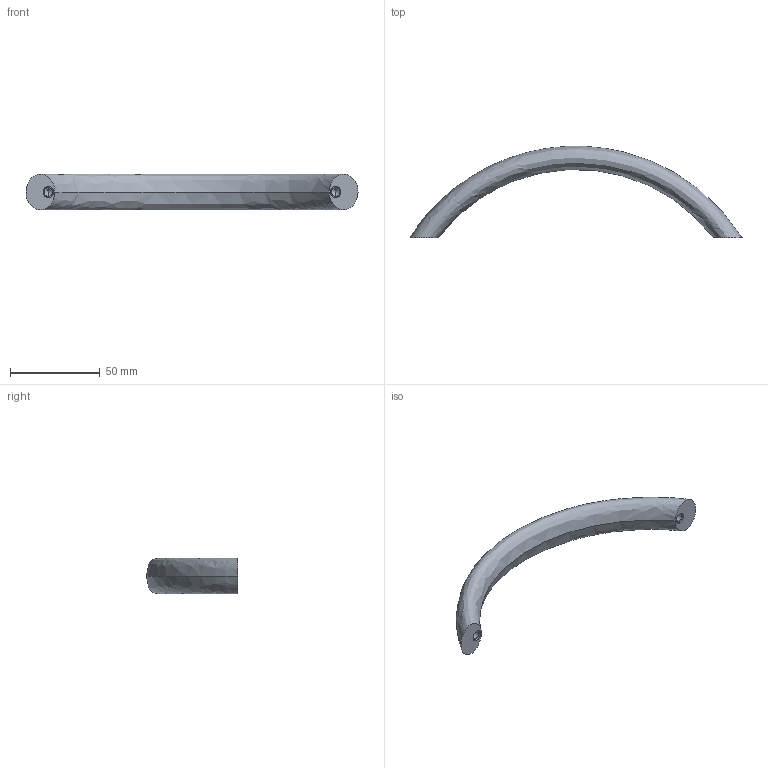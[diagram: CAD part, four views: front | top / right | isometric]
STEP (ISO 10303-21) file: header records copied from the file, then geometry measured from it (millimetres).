
FILE_DESCRIPTION (( 'STEP AP203' ), '1' );
FILE_NAME ('gn565-4_a_160-m6.step', '2010-11-02T08:21:08', ( '_' ), ( '_' ), 'SwSTEP 2.0', 'SolidWorks 2010', '' );
FILE_SCHEMA (( 'CONFIG_CONTROL_DESIGN' ));
Length unit declared in the file: millimetre
Products named in the file (1): gn565-4_a_160-m6
Bounding box: 185 x 50.87 x 20 mm (x, y, z)
Volume: 40681.1 mm3; surface area: 11249.5 mm2
Topology: 1 solids, 1 shells, 18 faces, 38 edges, 22 vertices
Faces by surface type: cylinder 8, cone 4, plane 4, bspline 2
Entity records: 1439 total; most frequent: CARTESIAN_POINT 997, DIRECTION 78, ORIENTED_EDGE 68, EDGE_CURVE 34, AXIS2_PLACEMENT_3D 33, EDGE_LOOP 22, VERTEX_POINT 22, ADVANCED_FACE 18
